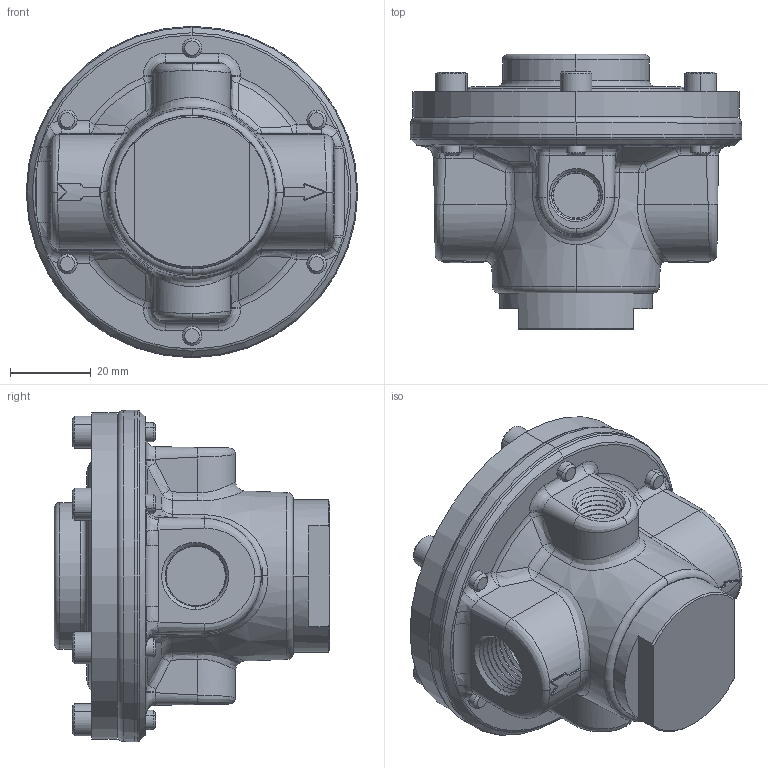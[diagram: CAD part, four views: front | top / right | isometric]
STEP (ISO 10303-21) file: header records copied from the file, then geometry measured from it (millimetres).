
FILE_DESCRIPTION (( 'STEP AP203' ), '1' );
FILE_NAME ('4GDR-375B-PO.STEP', '2013-03-13T19:42:23', ( '' ), ( '' ), 'SwSTEP 2.0', 'SolidWorks 2011', '' );
FILE_SCHEMA (( 'CONFIG_CONTROL_DESIGN' ));
Length unit declared in the file: inch
Products named in the file (3): 4GDR-375B-PO; Part5^4GDR-375B-PO_CM; Part2^4GDR-375B-PO_CM
Assembly tree (1 placements, depth 2):
  4GDR-375B-PO
    Part5^4GDR-375B-PO_CM
  Part2^4GDR-375B-PO_CM
Bounding box: 82.3 x 68.38 x 82.3 mm (x, y, z)
Volume: 165555.3 mm3; surface area: 27951.3 mm2
Topology: 1 solids, 1 shells, 690 faces, 1514 edges, 832 vertices
Faces by surface type: cone 294, bspline 129, plane 121, cylinder 110, torus 27, sphere 9
Entity records: 23577 total; most frequent: CARTESIAN_POINT 9125, ORIENTED_EDGE 2998, DIRECTION 2940, EDGE_CURVE 1499, AXIS2_PLACEMENT_3D 1181, VERTEX_POINT 832, EDGE_LOOP 711, ADVANCED_FACE 690
